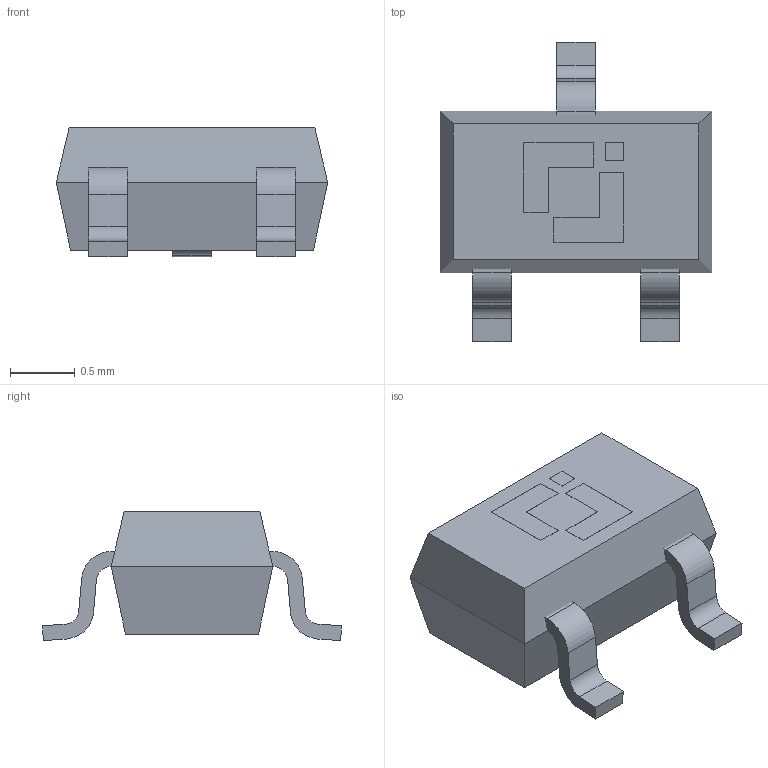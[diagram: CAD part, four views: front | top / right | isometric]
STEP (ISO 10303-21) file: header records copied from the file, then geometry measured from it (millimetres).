
FILE_DESCRIPTION(('HOOPS Exchange Step'),'2;1');
FILE_NAME('C:\Users\JSCJ\AppData\Local\Packages\Shapr3D.Shapr3D_dvv5p1vgwv6mp\TempState\export\temp_export','2025-12-04T10:43:19+08:00',('JSCJ'),('Shapr3D Limited'),'HOOPS Exchange 2025.7','Shapr3D','Authorized');
FILE_SCHEMA( ('AP242_MANAGED_MODEL_BASED_3D_ENGINEERING_MIM_LF {1 0 10303 442 1 1 4}') );
Length unit declared in the file: millimetre
Products named in the file (2): 直线图案 02; root
Assembly tree (1 placements, depth 2):
  root
    直线图案 02
Bounding box: 2.1 x 2.32 x 1 mm (x, y, z)
Volume: 2.3 mm3; surface area: 12.7 mm2
Topology: 4 solids, 4 shells, 71 faces, 176 edges, 116 vertices
Faces by surface type: plane 59, cylinder 12
Entity records: 2166 total; most frequent: CARTESIAN_POINT 367, ORIENTED_EDGE 352, DIRECTION 350, EDGE_CURVE 176, VECTOR 152, LINE 152, VERTEX_POINT 116, AXIS2_PLACEMENT_3D 99
